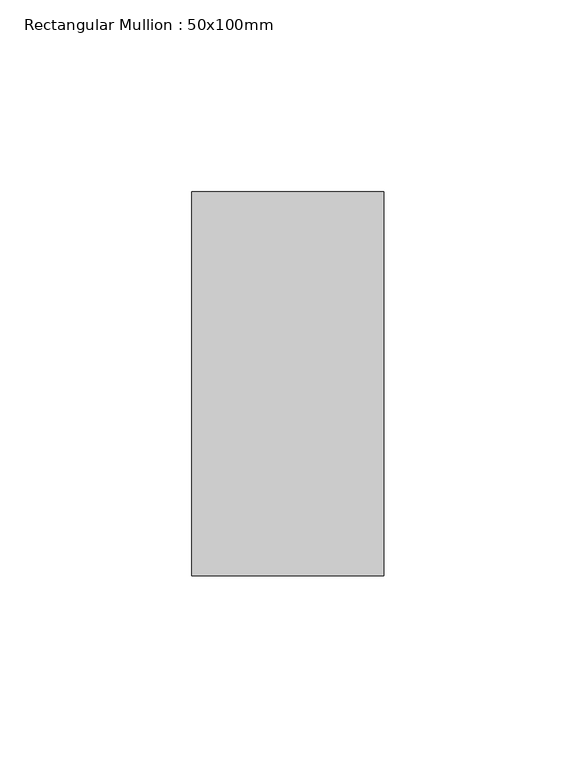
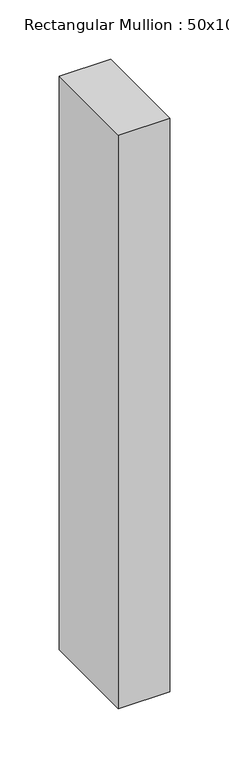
"""IFC4 building model written with IfcOpenShell, lengths in millimetres: member geometry, Rectangular Mullion : 50x100mm."""

import ifcopenshell
import ifcopenshell.guid

model = None  # the IFC model being written
_history = None  # IfcOwnerHistory: only IFC2X3 demands one
_inside = {}  # id of a spatial element -> (the spatial element, [elements in it])
_under = {}  # id of a project, library or spatial element -> (it, [spatial elements below it])
_declared = {}  # id of a project -> (the project, [libraries it declares])
_typed = {}  # id of a type object -> (the type object, [elements of that type])
_made_of = {}  # id of a material, layer set ... -> (it, [elements and type objects made of it])


def new_model(schema):
    """Start an empty IFC model of exactly this schema.

    Asked for "IFC4X3", IfcOpenShell would pick the latest addendum, in which some entities
    have other attributes; the version numbers below select the first issue.
    IFC2X3 requires an IfcOwnerHistory on every rooted entity: one is made here for all.
    """
    global model, _history
    if schema == "IFC4X3":
        model = ifcopenshell.file(schema_version=(4, 3, 0, 0))
    else:
        model = ifcopenshell.file(schema=schema)
    _inside.clear()
    _under.clear()
    _declared.clear()
    _typed.clear()
    _made_of.clear()
    _history = None
    if model.schema == "IFC2X3":
        org = make("IfcOrganization", Name="unknown")
        user = make(
            "IfcPersonAndOrganization",
            ThePerson=make("IfcPerson", FamilyName="unknown"),
            TheOrganization=org,
        )
        app = make(
            "IfcApplication",
            ApplicationDeveloper=org,
            Version="unknown",
            ApplicationFullName="unknown",
            ApplicationIdentifier="unknown",
        )
        _history = make(
            "IfcOwnerHistory",
            OwningUser=user,
            OwningApplication=app,
            ChangeAction="ADDED",
            CreationDate=0,
        )
    return model


def make(cls, **values):
    """One entity of the class cls with the attributes given. An attribute that is None is left unset."""
    return model.create_entity(
        cls, **{name: value for name, value in values.items() if value is not None}
    )


def rooted(cls, **values):
    """An entity with a GlobalId (a new one), such as an element, a storey or a relation."""
    return make(cls, GlobalId=ifcopenshell.guid.new(), OwnerHistory=_history, **values)


def si_unit(unit_type, name, prefix=None):
    """IfcSIUnit, for example si_unit("LENGTHUNIT", "METRE", prefix="MILLI")."""
    return make("IfcSIUnit", UnitType=unit_type, Prefix=prefix, Name=name)


def assignment(units):
    """IfcUnitAssignment: the units of a project."""
    return None if units is None else make("IfcUnitAssignment", Units=units)


def point(xyz):
    """IfcCartesianPoint."""
    return None if xyz is None else make("IfcCartesianPoint", Coordinates=xyz)


def direction(xyz):
    """IfcDirection."""
    return None if xyz is None else make("IfcDirection", DirectionRatios=xyz)


def frame(location, z_axis=None, x_axis=None):
    """IfcAxis2Placement3D, a coordinate frame: its origin and axes. An axis left out is left unset."""
    return make(
        "IfcAxis2Placement3D",
        Location=point(location),
        Axis=direction(z_axis),
        RefDirection=direction(x_axis),
    )


def origin():
    """The frame at (0, 0, 0) with its axes left unset."""
    return frame((0.0, 0.0, 0.0))


def place(relative_to, where):
    """IfcLocalPlacement: puts the frame where relative to a parent placement (None: the world)."""
    return make(
        "IfcLocalPlacement", PlacementRelTo=relative_to, RelativePlacement=where
    )


def context(
    kind, dimensions, precision=None, world=None, true_north=None, identifier=None
):
    """IfcGeometricRepresentationContext, for example the 3D "Model" context."""
    return make(
        "IfcGeometricRepresentationContext",
        ContextIdentifier=identifier,
        ContextType=kind,
        CoordinateSpaceDimension=dimensions,
        Precision=precision,
        WorldCoordinateSystem=world,
        TrueNorth=true_north,
    )


def project(units=None, contexts=None):
    """IfcProject with its units and contexts."""
    return rooted(
        "IfcProject",
        Name="project",
        RepresentationContexts=contexts,
        UnitsInContext=assignment(units),
    )


def spatial(cls, under=None, at=None, **own):
    """A site, building, storey or space (cls), placed at a placement, below another one or the project."""
    s = rooted(cls, ObjectPlacement=at, **own)
    if under is not None:
        _under.setdefault(under.id(), (under, []))[1].append(s)
    return s


def polyline(points):
    """IfcPolyline through the points."""
    return make("IfcPolyline", Points=[point(p) for p in points])


def outline(outer, holes=None, kind="AREA"):
    """IfcArbitraryClosedProfileDef: a profile drawn as a closed curve; with holes, ...WithVoids."""
    if holes is None:
        return make("IfcArbitraryClosedProfileDef", ProfileType=kind, OuterCurve=outer)
    return make(
        "IfcArbitraryProfileDefWithVoids",
        ProfileType=kind,
        OuterCurve=outer,
        InnerCurves=holes,
    )


def extrude(swept, where, along, depth):
    """IfcExtrudedAreaSolid: the profile swept, set in the frame where, extruded along a direction by depth."""
    return make(
        "IfcExtrudedAreaSolid",
        SweptArea=swept,
        Position=where,
        ExtrudedDirection=direction(along),
        Depth=depth,
    )


def shape(context_of_items, identifier, shape_type, items):
    """IfcShapeRepresentation: the items that make up one representation, for example the "Body"."""
    return make(
        "IfcShapeRepresentation",
        ContextOfItems=context_of_items,
        RepresentationIdentifier=identifier,
        RepresentationType=shape_type,
        Items=items,
    )


def source(mapping_origin, context_of_items, identifier, shape_type, items):
    """IfcRepresentationMap: a shape defined once, which mapped items show again and again."""
    return make(
        "IfcRepresentationMap",
        MappingOrigin=mapping_origin,
        MappedRepresentation=shape(context_of_items, identifier, shape_type, items),
    )


def transform(
    local_origin,
    x_axis=None,
    y_axis=None,
    z_axis=None,
    scale=None,
    scale2=None,
    scale3=None,
    uniform=True,
):
    """IfcCartesianTransformationOperator3D, or its non-uniform kind. x_axis, y_axis, z_axis: its Axis1, 2, 3."""
    if uniform:
        return make(
            "IfcCartesianTransformationOperator3D",
            Axis1=direction(x_axis),
            Axis2=direction(y_axis),
            LocalOrigin=point(local_origin),
            Scale=scale,
            Axis3=direction(z_axis),
        )
    return make(
        "IfcCartesianTransformationOperator3DnonUniform",
        Axis1=direction(x_axis),
        Axis2=direction(y_axis),
        LocalOrigin=point(local_origin),
        Scale=scale,
        Axis3=direction(z_axis),
        Scale2=scale2,
        Scale3=scale3,
    )


def mapped(mapping_source, mapping_target):
    """IfcMappedItem: shows the shape of a source again, moved by a transform."""
    return make(
        "IfcMappedItem", MappingSource=mapping_source, MappingTarget=mapping_target
    )


def made_of(thing, what):
    """Note that an element or type object is made of a material, layer set ...; save() writes the relation."""
    if what is not None:
        _made_of.setdefault(what.id(), (what, []))[1].append(thing)
    return thing


def element(
    cls,
    number,
    at=None,
    inside=None,
    cuts=None,
    type_object=None,
    material=None,
    context=None,
    identifier="Body",
    shape_type=None,
    held_by="IfcProductDefinitionShape",
    body=None,
    shapes=None,
    **own,
):
    """One element of the class cls, such as IfcWall. Its Tag is "e" and its number.

    at: its placement. inside: the storey or other place that contains it. cuts: it is an
    opening in that element (IfcRelVoidsElement). A single representation is given by context,
    identifier, shape_type and body (its items); several are given by shapes. held_by: the class
    of the entity that holds the representations. save() writes the other relations.
    """
    e = rooted(cls, Tag="e%d" % number, ObjectPlacement=at, **own)
    if body is not None:
        shapes = [shape(context, identifier, shape_type, body)]
    if shapes is not None:
        e.Representation = make(held_by, Representations=shapes)
    if inside is not None:
        _inside.setdefault(inside.id(), (inside, []))[1].append(e)
    if cuts is not None:
        rooted(
            "IfcRelVoidsElement", RelatingBuildingElement=cuts, RelatedOpeningElement=e
        )
    if type_object is not None:
        _typed.setdefault(type_object.id(), (type_object, []))[1].append(e)
    return made_of(e, material)


def aggregate(whole, parts):
    """IfcRelAggregates: a whole, such as a stair, and the parts it consists of."""
    return rooted("IfcRelAggregates", RelatingObject=whole, RelatedObjects=parts)


def save(model, path):
    """Write the relations noted so far, then the file.

    IfcRelAggregates (storeys below a building ...), IfcRelContainedInSpatialStructure (elements
    in a storey), IfcRelDefinesByType, IfcRelAssociatesMaterial and IfcRelDeclares: one each for
    every whole, place, type object, material and project.
    """
    for whole, parts in _under.values():
        aggregate(whole, parts)
    for where, things in _inside.values():
        rooted(
            "IfcRelContainedInSpatialStructure",
            RelatedElements=things,
            RelatingStructure=where,
        )
    for kind, things in _typed.values():
        rooted("IfcRelDefinesByType", RelatedObjects=things, RelatingType=kind)
    for what, things in _made_of.values():
        rooted("IfcRelAssociatesMaterial", RelatedObjects=things, RelatingMaterial=what)
    for by, libraries in _declared.values():
        rooted("IfcRelDeclares", RelatingContext=by, RelatedDefinitions=libraries)
    model.write(path)


def rectangular_mullion_50x100mm_bf5cab20(model_context):
    return source(origin(), model_context, "Body", "SweptSolid", [
        extrude(outline(polyline([(0.0, 50.0), (0.0, -50.0), (-50.0, -50.0), (-50.0, 50.0), (0.0, 50.0)])), frame((0.0, 0.0, -591.3359716), z_axis=(0.0, 0.0, 1.0), x_axis=(1.0, 0.0, 0.0)), (0.0, 0.0, 1.0), 591.3359716),
    ])


if __name__ == "__main__":
    model = new_model("IFC4")
    model_context = context("Model", 3, world=origin())
    ifc_project = project(units=[si_unit("LENGTHUNIT", "METRE", prefix="MILLI")], contexts=[model_context])
    site = spatial("IfcSite", under=ifc_project)
    building = spatial("IfcBuilding", under=site)
    placement = place(None, origin())
    rectangular_mullion_50x100mm_shape = rectangular_mullion_50x100mm_bf5cab20(model_context)
    element("IfcMember", 1, ObjectType="Rectangular Mullion : 50x100mm", at=placement, inside=building, context=model_context, shape_type="MappedRepresentation", body=[
        mapped(rectangular_mullion_50x100mm_shape, transform((0.0, 0.0, 0.0), x_axis=(1.0, 0.0, 0.0), y_axis=(0.0, 1.0, 0.0), z_axis=(0.0, 0.0, 1.0))),
    ])
    save(model, "model.ifc")
